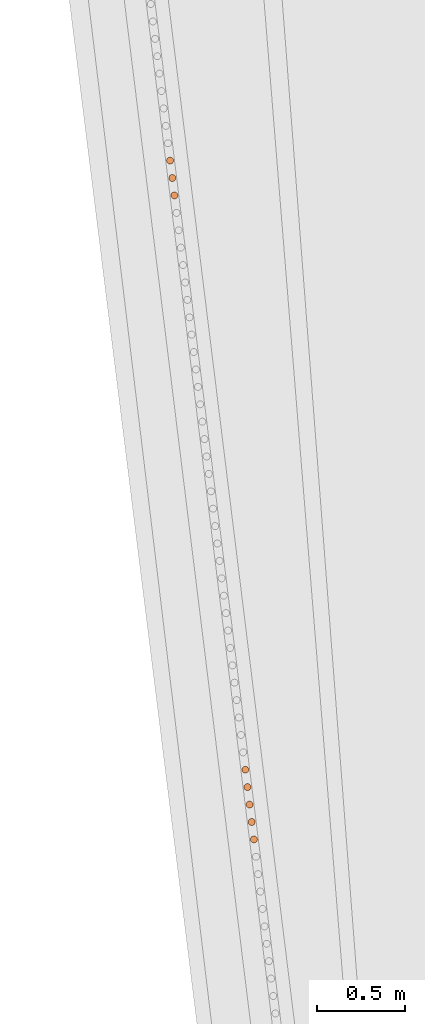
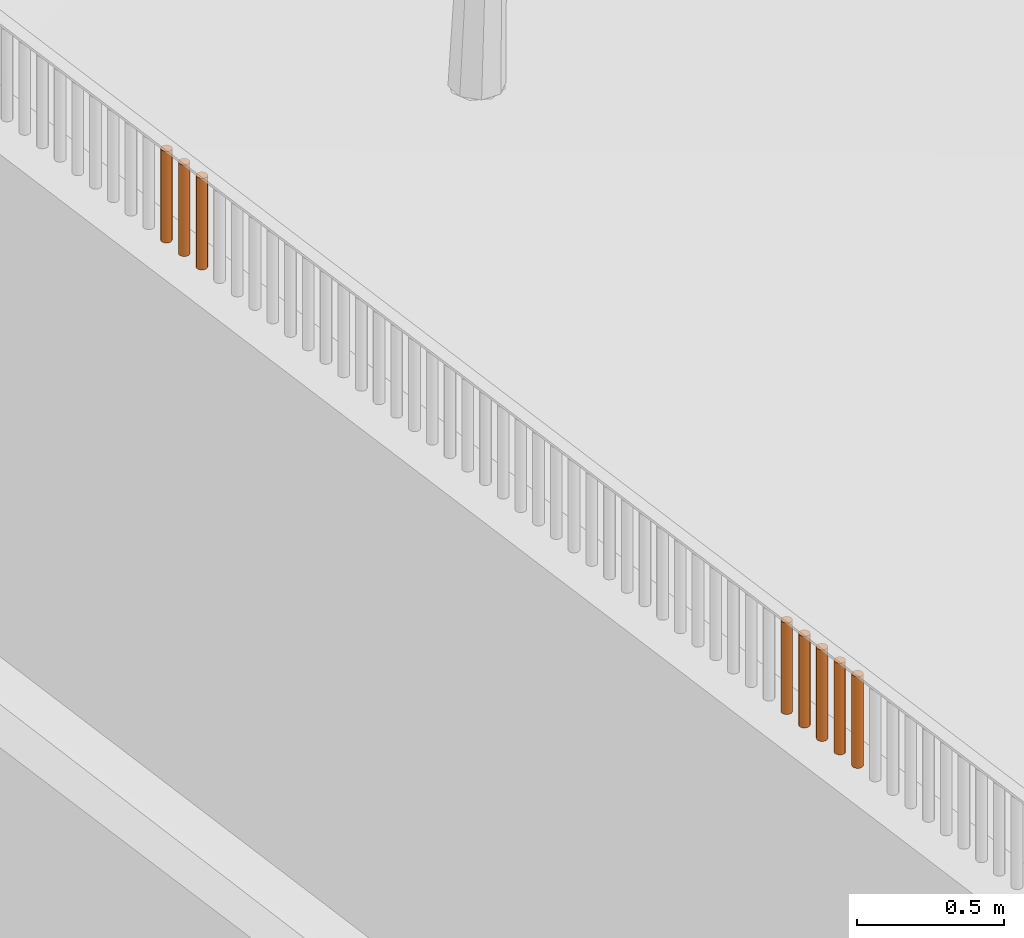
# One storey, part 119 of 1809: 8 proxies, 1 element without a shape of its own.
"""IFC2X3 building model written with IfcOpenShell, lengths in millimetres."""

from ifc_helpers import new_model, entity, si_unit, converted_unit, derived_unit, money_unit, direction, frame, origin_with_axes, place, context, subcontext, project, spatial, faceted_brep, source, transform, mapped, material, type_object, element, aggregate, save


model = new_model("IFC2X3")

# Units and contexts
model_context = context("Model", 3, precision=0.01, world=origin_with_axes(), true_north=direction((0.0, 1.0)))
body_context = subcontext(model_context, "Body", "Model", "MODEL_VIEW")
ifc_project = project(units=[si_unit("LENGTHUNIT", "METRE", prefix="MILLI"), si_unit("AREAUNIT", "SQUARE_METRE"), si_unit("VOLUMEUNIT", "CUBIC_METRE"), converted_unit("PLANEANGLEUNIT", "DEGREE", entity("IfcPlaneAngleMeasure", 0.0174532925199), si_unit("PLANEANGLEUNIT", "RADIAN"), dimensions=[0, 0, 0, 0, 0, 0, 0]), si_unit("SOLIDANGLEUNIT", "STERADIAN"), money_unit("EUR"), converted_unit("TIMEUNIT", "Year", entity("IfcTimeMeasure", 31556926.0), si_unit("TIMEUNIT", "SECOND"), dimensions=[0, 0, 1, 0, 0, 0, 0]), si_unit("MASSUNIT", "GRAM", prefix="KILO"), si_unit("THERMODYNAMICTEMPERATUREUNIT", "DEGREE_CELSIUS"), si_unit("LUMINOUSINTENSITYUNIT", "LUMEN"), si_unit("ENERGYUNIT", "JOULE", prefix="MEGA"), derived_unit("THERMALCONDUCTANCEUNIT", [(si_unit("POWERUNIT", "WATT"), 1), (si_unit("LENGTHUNIT", "METRE"), -1), (si_unit("THERMODYNAMICTEMPERATUREUNIT", "KELVIN"), -1)]), derived_unit("SPECIFICHEATCAPACITYUNIT", [(si_unit("ENERGYUNIT", "JOULE"), 1), (si_unit("MASSUNIT", "GRAM", prefix="KILO"), -1), (si_unit("THERMODYNAMICTEMPERATUREUNIT", "KELVIN"), -1)]), derived_unit("MASSDENSITYUNIT", [(si_unit("MASSUNIT", "GRAM", prefix="KILO"), 1), (si_unit("VOLUMEUNIT", "CUBIC_METRE"), -1)])], contexts=[model_context])

# Site, building, storey
site_placement = place(None, origin_with_axes())
site = spatial("IfcSite", under=ifc_project, at=site_placement, Name="Politse- ja Piirivalveameti ning Päästeameti ühishoone", CompositionType="ELEMENT")
building_placement = place(site_placement, origin_with_axes())
building = spatial("IfcBuilding", under=site, at=building_placement, Name="Politse- ja Piirivalveameti ning Päästeameti ühishoone", CompositionType="ELEMENT")
storey_placement = place(building_placement, origin_with_axes())
storey = spatial("IfcBuildingStorey", under=building, at=storey_placement, Name="Esimene korrus", CompositionType="ELEMENT", Elevation=0.0)

# Proxies
building_element_proxy_type_1 = type_object("IfcBuildingElementProxyType", Name="Railing Type", PredefinedType="NOTDEFINED")
proxy_1_placement = place(storey_placement, frame((-18956.5522504, -53688.4757966, 2100.0), z_axis=(0.0, 0.0, 1.0), x_axis=(1.0, 0.0, 0.0)))
proxy_1 = element("IfcBuildingElementProxy", 1, at=proxy_1_placement, inside=storey, type_object=building_element_proxy_type_1, Name="PIIRDEAED")
ifc_material = material(Name="ET-06_Teras - Konstruktsioon")
building_element_proxy_type_2 = type_object("IfcBuildingElementProxyType", Name="IfcBuildingElementProxy", PredefinedType="NOTDEFINED")
shared_shape_1 = source(origin_with_axes(), body_context, "Body", "Brep", [
    faceted_brep([(0.0, -20.0, 0.0), (3.47296355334, -19.6961550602, 0.0), (3.47296355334, -19.6961550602, 380.000012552), (0.0, -20.0, 380.000012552), (-3.47296355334, -19.6961550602, 0.0), (-6.84040286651, -18.7938524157, 0.0), (-10.0, -17.3205080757, 0.0), (-12.8557521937, -15.3208888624, 0.0), (-15.3208888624, -12.8557521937, 0.0), (-17.3205080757, -10.0, 0.0), (-18.7938524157, -6.84040286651, 0.0), (-19.6961550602, -3.47296355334, 0.0), (-20.0, 0.0, 0.0), (-19.6961550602, 3.47296355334, 0.0), (-18.7938524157, 6.84040286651, 0.0), (-17.3205080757, 10.0, 0.0), (-15.3208888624, 12.8557521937, 0.0), (-12.8557521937, 15.3208888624, 0.0), (-10.0, 17.3205080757, 0.0), (-6.84040286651, 18.7938524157, 0.0), (-3.47296355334, 19.6961550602, 0.0), (0.0, 20.0, 0.0), (3.47296355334, 19.6961550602, 0.0), (6.84040286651, 18.7938524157, 0.0), (10.0, 17.3205080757, 0.0), (12.8557521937, 15.3208888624, 0.0), (15.3208888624, 12.8557521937, 0.0), (17.3205080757, 10.0, 0.0), (18.7938524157, 6.84040286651, 0.0), (19.6961550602, 3.47296355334, 0.0), (20.0, 0.0, 0.0), (19.6961550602, -3.47296355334, 0.0), (18.7938524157, -6.84040286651, 0.0), (17.3205080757, -10.0, 0.0), (15.3208888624, -12.8557521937, 0.0), (12.8557521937, -15.3208888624, 0.0), (10.0, -17.3205080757, 0.0), (6.84040286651, -18.7938524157, 0.0), (6.84040286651, -18.7938524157, 380.000012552), (10.0, -17.3205080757, 380.000012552), (12.8557521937, -15.3208888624, 380.000012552), (15.3208888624, -12.8557521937, 380.000012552), (17.3205080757, -10.0, 380.000012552), (18.7938524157, -6.84040286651, 380.000012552), (19.6961550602, -3.47296355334, 380.000012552), (20.0, 0.0, 380.000012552), (19.6961550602, 3.47296355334, 380.000012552), (18.7938524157, 6.84040286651, 380.000012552), (17.3205080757, 10.0, 380.000012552), (15.3208888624, 12.8557521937, 380.000012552), (12.8557521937, 15.3208888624, 380.000012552), (10.0, 17.3205080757, 380.000012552), (6.84040286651, 18.7938524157, 380.000012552), (3.47296355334, 19.6961550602, 380.000012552), (0.0, 20.0, 380.000012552), (-3.47296355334, 19.6961550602, 380.000012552), (-6.84040286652, 18.7938524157, 380.000012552), (-10.0, 17.3205080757, 380.000012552), (-12.8557521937, 15.3208888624, 380.000012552), (-15.3208888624, 12.8557521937, 380.000012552), (-17.3205080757, 10.0, 380.000012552), (-18.7938524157, 6.84040286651, 380.000012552), (-19.6961550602, 3.47296355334, 380.000012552), (-20.0, 0.0, 380.000012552), (-19.6961550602, -3.47296355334, 380.000012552), (-18.7938524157, -6.84040286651, 380.000012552), (-17.3205080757, -10.0, 380.000012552), (-15.3208888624, -12.8557521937, 380.000012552), (-12.8557521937, -15.3208888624, 380.000012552), (-10.0, -17.3205080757, 380.000012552), (-6.84040286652, -18.7938524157, 380.000012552), (-3.47296355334, -19.6961550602, 380.000012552)], [[[0, 1, 2, 3]], [[0, 4, 5, 6, 7, 8, 9, 10, 11, 12, 13, 14, 15, 16, 17, 18, 19, 20, 21, 22, 23, 24, 25, 26, 27, 28, 29, 30, 31, 32, 33, 34, 35, 36, 37, 1]], [[1, 37, 38, 2]], [[3, 2, 38, 39, 40, 41, 42, 43, 44, 45, 46, 47, 48, 49, 50, 51, 52, 53, 54, 55, 56, 57, 58, 59, 60, 61, 62, 63, 64, 65, 66, 67, 68, 69, 70, 71]], [[4, 0, 3, 71]], [[5, 4, 71, 70]], [[6, 5, 70, 69]], [[7, 6, 69, 68]], [[8, 7, 68, 67]], [[9, 8, 67, 66]], [[10, 9, 66, 65]], [[11, 10, 65, 64]], [[12, 11, 64, 63]], [[13, 12, 63, 62]], [[14, 13, 62, 61]], [[15, 14, 61, 60]], [[16, 15, 60, 59]], [[17, 16, 59, 58]], [[18, 17, 58, 57]], [[19, 18, 57, 56]], [[20, 19, 56, 55]], [[21, 20, 55, 54]], [[22, 21, 54, 53]], [[23, 22, 53, 52]], [[24, 23, 52, 51]], [[25, 24, 51, 50]], [[26, 25, 50, 49]], [[27, 26, 49, 48]], [[28, 27, 48, 47]], [[29, 28, 47, 46]], [[30, 29, 46, 45]], [[31, 30, 45, 44]], [[32, 31, 44, 43]], [[33, 32, 43, 42]], [[34, 33, 42, 41]], [[35, 34, 41, 40]], [[36, 35, 40, 39]], [[37, 36, 39, 38]]]),
])
proxy_2_placement = place(proxy_1_placement, frame((-3044.71972679, 23832.8473186, -1.25517001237e-05), z_axis=(0.0, 0.0, 1.0), x_axis=(1.0, 0.0, 0.0)))
proxy_2 = element("IfcBuildingElementProxy", 2, at=proxy_2_placement, type_object=building_element_proxy_type_2, material=ifc_material, Name="BALUSTER - 001", context=body_context, shape_type="MappedRepresentation", body=[
    mapped(shared_shape_1, transform((0.0, 0.0, 0.0), x_axis=(0.992468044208, 0.122503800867, 0.0), y_axis=(-0.122503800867, 0.992468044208, 0.0), z_axis=(0.0, 0.0, 1.0))),
])
shared_shape_2 = source(origin_with_axes(), body_context, "Body", "Brep", [
    faceted_brep([(0.0, -20.0, 0.0), (3.47296355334, -19.6961550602, 0.0), (3.47296355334, -19.6961550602, 380.000012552), (0.0, -20.0, 380.000012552), (-3.47296355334, -19.6961550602, 0.0), (-6.84040286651, -18.7938524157, 0.0), (-10.0, -17.3205080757, 0.0), (-12.8557521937, -15.3208888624, 0.0), (-15.3208888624, -12.8557521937, 0.0), (-17.3205080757, -10.0, 0.0), (-18.7938524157, -6.84040286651, 0.0), (-19.6961550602, -3.47296355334, 0.0), (-20.0, 0.0, 0.0), (-19.6961550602, 3.47296355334, 0.0), (-18.7938524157, 6.84040286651, 0.0), (-17.3205080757, 10.0, 0.0), (-15.3208888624, 12.8557521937, 0.0), (-12.8557521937, 15.3208888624, 0.0), (-10.0, 17.3205080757, 0.0), (-6.84040286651, 18.7938524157, 0.0), (-3.47296355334, 19.6961550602, 0.0), (0.0, 20.0, 0.0), (3.47296355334, 19.6961550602, 0.0), (6.84040286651, 18.7938524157, 0.0), (10.0, 17.3205080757, 0.0), (12.8557521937, 15.3208888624, 0.0), (15.3208888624, 12.8557521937, 0.0), (17.3205080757, 10.0, 0.0), (18.7938524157, 6.84040286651, 0.0), (19.6961550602, 3.47296355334, 0.0), (20.0, 0.0, 0.0), (19.6961550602, -3.47296355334, 0.0), (18.7938524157, -6.84040286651, 0.0), (17.3205080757, -10.0, 0.0), (15.3208888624, -12.8557521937, 0.0), (12.8557521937, -15.3208888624, 0.0), (10.0, -17.3205080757, 0.0), (6.84040286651, -18.7938524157, 0.0), (6.84040286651, -18.7938524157, 380.000012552), (10.0, -17.3205080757, 380.000012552), (12.8557521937, -15.3208888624, 380.000012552), (15.3208888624, -12.8557521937, 380.000012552), (17.3205080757, -10.0, 380.000012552), (18.7938524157, -6.84040286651, 380.000012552), (19.6961550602, -3.47296355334, 380.000012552), (20.0, 0.0, 380.000012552), (19.6961550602, 3.47296355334, 380.000012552), (18.7938524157, 6.84040286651, 380.000012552), (17.3205080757, 10.0, 380.000012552), (15.3208888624, 12.8557521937, 380.000012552), (12.8557521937, 15.3208888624, 380.000012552), (10.0, 17.3205080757, 380.000012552), (6.84040286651, 18.7938524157, 380.000012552), (3.47296355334, 19.6961550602, 380.000012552), (0.0, 20.0, 380.000012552), (-3.47296355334, 19.6961550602, 380.000012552), (-6.84040286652, 18.7938524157, 380.000012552), (-10.0, 17.3205080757, 380.000012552), (-12.8557521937, 15.3208888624, 380.000012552), (-15.3208888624, 12.8557521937, 380.000012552), (-17.3205080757, 10.0, 380.000012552), (-18.7938524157, 6.84040286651, 380.000012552), (-19.6961550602, 3.47296355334, 380.000012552), (-20.0, 0.0, 380.000012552), (-19.6961550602, -3.47296355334, 380.000012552), (-18.7938524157, -6.84040286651, 380.000012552), (-17.3205080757, -10.0, 380.000012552), (-15.3208888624, -12.8557521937, 380.000012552), (-12.8557521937, -15.3208888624, 380.000012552), (-10.0, -17.3205080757, 380.000012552), (-6.84040286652, -18.7938524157, 380.000012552), (-3.47296355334, -19.6961550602, 380.000012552)], [[[0, 1, 2, 3]], [[0, 4, 5, 6, 7, 8, 9, 10, 11, 12, 13, 14, 15, 16, 17, 18, 19, 20, 21, 22, 23, 24, 25, 26, 27, 28, 29, 30, 31, 32, 33, 34, 35, 36, 37, 1]], [[1, 37, 38, 2]], [[3, 2, 38, 39, 40, 41, 42, 43, 44, 45, 46, 47, 48, 49, 50, 51, 52, 53, 54, 55, 56, 57, 58, 59, 60, 61, 62, 63, 64, 65, 66, 67, 68, 69, 70, 71]], [[4, 0, 3, 71]], [[5, 4, 71, 70]], [[6, 5, 70, 69]], [[7, 6, 69, 68]], [[8, 7, 68, 67]], [[9, 8, 67, 66]], [[10, 9, 66, 65]], [[11, 10, 65, 64]], [[12, 11, 64, 63]], [[13, 12, 63, 62]], [[14, 13, 62, 61]], [[15, 14, 61, 60]], [[16, 15, 60, 59]], [[17, 16, 59, 58]], [[18, 17, 58, 57]], [[19, 18, 57, 56]], [[20, 19, 56, 55]], [[21, 20, 55, 54]], [[22, 21, 54, 53]], [[23, 22, 53, 52]], [[24, 23, 52, 51]], [[25, 24, 51, 50]], [[26, 25, 50, 49]], [[27, 26, 49, 48]], [[28, 27, 48, 47]], [[29, 28, 47, 46]], [[30, 29, 46, 45]], [[31, 30, 45, 44]], [[32, 31, 44, 43]], [[33, 32, 43, 42]], [[34, 33, 42, 41]], [[35, 34, 41, 40]], [[36, 35, 40, 39]], [[37, 36, 39, 38]]]),
])
proxy_3_placement = place(proxy_1_placement, frame((-2579.30694009, 20062.2923245, -1.25517001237e-05), z_axis=(0.0, 0.0, 1.0), x_axis=(1.0, 0.0, 0.0)))
proxy_3 = element("IfcBuildingElementProxy", 3, at=proxy_3_placement, type_object=building_element_proxy_type_2, material=ifc_material, Name="BALUSTER - 001", context=body_context, shape_type="MappedRepresentation", body=[
    mapped(shared_shape_2, transform((0.0, 0.0, 0.0), x_axis=(0.992468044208, 0.122503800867, 0.0), y_axis=(-0.122503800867, 0.992468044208, 0.0), z_axis=(0.0, 0.0, 1.0))),
])
shared_shape_3 = source(origin_with_axes(), body_context, "Body", "Brep", [
    faceted_brep([(0.0, -20.0, 0.0), (3.47296355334, -19.6961550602, 0.0), (3.47296355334, -19.6961550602, 380.000012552), (0.0, -20.0, 380.000012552), (-3.47296355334, -19.6961550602, 0.0), (-6.84040286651, -18.7938524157, 0.0), (-10.0, -17.3205080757, 0.0), (-12.8557521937, -15.3208888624, 0.0), (-15.3208888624, -12.8557521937, 0.0), (-17.3205080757, -10.0, 0.0), (-18.7938524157, -6.84040286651, 0.0), (-19.6961550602, -3.47296355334, 0.0), (-20.0, 0.0, 0.0), (-19.6961550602, 3.47296355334, 0.0), (-18.7938524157, 6.84040286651, 0.0), (-17.3205080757, 10.0, 0.0), (-15.3208888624, 12.8557521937, 0.0), (-12.8557521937, 15.3208888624, 0.0), (-10.0, 17.3205080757, 0.0), (-6.84040286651, 18.7938524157, 0.0), (-3.47296355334, 19.6961550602, 0.0), (0.0, 20.0, 0.0), (3.47296355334, 19.6961550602, 0.0), (6.84040286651, 18.7938524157, 0.0), (10.0, 17.3205080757, 0.0), (12.8557521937, 15.3208888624, 0.0), (15.3208888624, 12.8557521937, 0.0), (17.3205080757, 10.0, 0.0), (18.7938524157, 6.84040286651, 0.0), (19.6961550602, 3.47296355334, 0.0), (20.0, 0.0, 0.0), (19.6961550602, -3.47296355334, 0.0), (18.7938524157, -6.84040286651, 0.0), (17.3205080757, -10.0, 0.0), (15.3208888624, -12.8557521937, 0.0), (12.8557521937, -15.3208888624, 0.0), (10.0, -17.3205080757, 0.0), (6.84040286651, -18.7938524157, 0.0), (6.84040286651, -18.7938524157, 380.000012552), (10.0, -17.3205080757, 380.000012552), (12.8557521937, -15.3208888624, 380.000012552), (15.3208888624, -12.8557521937, 380.000012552), (17.3205080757, -10.0, 380.000012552), (18.7938524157, -6.84040286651, 380.000012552), (19.6961550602, -3.47296355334, 380.000012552), (20.0, 0.0, 380.000012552), (19.6961550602, 3.47296355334, 380.000012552), (18.7938524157, 6.84040286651, 380.000012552), (17.3205080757, 10.0, 380.000012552), (15.3208888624, 12.8557521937, 380.000012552), (12.8557521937, 15.3208888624, 380.000012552), (10.0, 17.3205080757, 380.000012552), (6.84040286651, 18.7938524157, 380.000012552), (3.47296355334, 19.6961550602, 380.000012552), (0.0, 20.0, 380.000012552), (-3.47296355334, 19.6961550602, 380.000012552), (-6.84040286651, 18.7938524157, 380.000012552), (-10.0, 17.3205080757, 380.000012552), (-12.8557521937, 15.3208888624, 380.000012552), (-15.3208888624, 12.8557521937, 380.000012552), (-17.3205080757, 10.0, 380.000012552), (-18.7938524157, 6.84040286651, 380.000012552), (-19.6961550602, 3.47296355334, 380.000012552), (-20.0, 0.0, 380.000012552), (-19.6961550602, -3.47296355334, 380.000012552), (-18.7938524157, -6.84040286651, 380.000012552), (-17.3205080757, -10.0, 380.000012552), (-15.3208888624, -12.8557521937, 380.000012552), (-12.8557521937, -15.3208888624, 380.000012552), (-10.0, -17.3205080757, 380.000012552), (-6.84040286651, -18.7938524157, 380.000012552), (-3.47296355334, -19.6961550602, 380.000012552)], [[[0, 1, 2, 3]], [[0, 4, 5, 6, 7, 8, 9, 10, 11, 12, 13, 14, 15, 16, 17, 18, 19, 20, 21, 22, 23, 24, 25, 26, 27, 28, 29, 30, 31, 32, 33, 34, 35, 36, 37, 1]], [[1, 37, 38, 2]], [[3, 2, 38, 39, 40, 41, 42, 43, 44, 45, 46, 47, 48, 49, 50, 51, 52, 53, 54, 55, 56, 57, 58, 59, 60, 61, 62, 63, 64, 65, 66, 67, 68, 69, 70, 71]], [[4, 0, 3, 71]], [[5, 4, 71, 70]], [[6, 5, 70, 69]], [[7, 6, 69, 68]], [[8, 7, 68, 67]], [[9, 8, 67, 66]], [[10, 9, 66, 65]], [[11, 10, 65, 64]], [[12, 11, 64, 63]], [[13, 12, 63, 62]], [[14, 13, 62, 61]], [[15, 14, 61, 60]], [[16, 15, 60, 59]], [[17, 16, 59, 58]], [[18, 17, 58, 57]], [[19, 18, 57, 56]], [[20, 19, 56, 55]], [[21, 20, 55, 54]], [[22, 21, 54, 53]], [[23, 22, 53, 52]], [[24, 23, 52, 51]], [[25, 24, 51, 50]], [[26, 25, 50, 49]], [[27, 26, 49, 48]], [[28, 27, 48, 47]], [[29, 28, 47, 46]], [[30, 29, 46, 45]], [[31, 30, 45, 44]], [[32, 31, 44, 43]], [[33, 32, 43, 42]], [[34, 33, 42, 41]], [[35, 34, 41, 40]], [[36, 35, 40, 39]], [[37, 36, 39, 38]]]),
])
proxy_4_placement = place(proxy_1_placement, frame((-3032.47202188, 23733.6221872, -1.25517001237e-05), z_axis=(0.0, 0.0, 1.0), x_axis=(1.0, 0.0, 0.0)))
proxy_4 = element("IfcBuildingElementProxy", 4, at=proxy_4_placement, type_object=building_element_proxy_type_2, material=ifc_material, Name="BALUSTER - 001", context=body_context, shape_type="MappedRepresentation", body=[
    mapped(shared_shape_3, transform((0.0, 0.0, 0.0), x_axis=(0.992468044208, 0.122503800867, 0.0), y_axis=(-0.122503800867, 0.992468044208, 0.0), z_axis=(0.0, 0.0, 1.0))),
])
shared_shape_4 = source(origin_with_axes(), body_context, "Body", "Brep", [
    faceted_brep([(0.0, -20.0, 0.0), (3.47296355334, -19.6961550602, 0.0), (3.47296355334, -19.6961550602, 380.000012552), (0.0, -20.0, 380.000012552), (-3.47296355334, -19.6961550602, 0.0), (-6.84040286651, -18.7938524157, 0.0), (-10.0, -17.3205080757, 0.0), (-12.8557521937, -15.3208888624, 0.0), (-15.3208888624, -12.8557521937, 0.0), (-17.3205080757, -10.0, 0.0), (-18.7938524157, -6.84040286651, 0.0), (-19.6961550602, -3.47296355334, 0.0), (-20.0, 0.0, 0.0), (-19.6961550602, 3.47296355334, 0.0), (-18.7938524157, 6.84040286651, 0.0), (-17.3205080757, 10.0, 0.0), (-15.3208888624, 12.8557521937, 0.0), (-12.8557521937, 15.3208888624, 0.0), (-10.0, 17.3205080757, 0.0), (-6.84040286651, 18.7938524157, 0.0), (-3.47296355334, 19.6961550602, 0.0), (0.0, 20.0, 0.0), (3.47296355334, 19.6961550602, 0.0), (6.84040286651, 18.7938524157, 0.0), (10.0, 17.3205080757, 0.0), (12.8557521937, 15.3208888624, 0.0), (15.3208888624, 12.8557521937, 0.0), (17.3205080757, 10.0, 0.0), (18.7938524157, 6.84040286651, 0.0), (19.6961550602, 3.47296355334, 0.0), (20.0, 0.0, 0.0), (19.6961550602, -3.47296355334, 0.0), (18.7938524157, -6.84040286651, 0.0), (17.3205080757, -10.0, 0.0), (15.3208888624, -12.8557521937, 0.0), (12.8557521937, -15.3208888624, 0.0), (10.0, -17.3205080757, 0.0), (6.84040286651, -18.7938524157, 0.0), (6.84040286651, -18.7938524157, 380.000012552), (10.0, -17.3205080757, 380.000012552), (12.8557521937, -15.3208888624, 380.000012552), (15.3208888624, -12.8557521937, 380.000012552), (17.3205080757, -10.0, 380.000012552), (18.7938524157, -6.84040286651, 380.000012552), (19.6961550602, -3.47296355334, 380.000012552), (20.0, 0.0, 380.000012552), (19.6961550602, 3.47296355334, 380.000012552), (18.7938524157, 6.84040286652, 380.000012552), (17.3205080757, 10.0, 380.000012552), (15.3208888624, 12.8557521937, 380.000012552), (12.8557521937, 15.3208888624, 380.000012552), (10.0, 17.3205080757, 380.000012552), (6.84040286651, 18.7938524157, 380.000012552), (3.47296355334, 19.6961550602, 380.000012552), (0.0, 20.0, 380.000012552), (-3.47296355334, 19.6961550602, 380.000012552), (-6.84040286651, 18.7938524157, 380.000012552), (-10.0, 17.3205080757, 380.000012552), (-12.8557521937, 15.3208888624, 380.000012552), (-15.3208888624, 12.8557521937, 380.000012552), (-17.3205080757, 10.0, 380.000012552), (-18.7938524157, 6.84040286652, 380.000012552), (-19.6961550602, 3.47296355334, 380.000012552), (-20.0, 0.0, 380.000012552), (-19.6961550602, -3.47296355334, 380.000012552), (-18.7938524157, -6.84040286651, 380.000012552), (-17.3205080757, -10.0, 380.000012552), (-15.3208888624, -12.8557521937, 380.000012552), (-12.8557521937, -15.3208888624, 380.000012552), (-10.0, -17.3205080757, 380.000012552), (-6.84040286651, -18.7938524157, 380.000012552), (-3.47296355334, -19.6961550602, 380.000012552)], [[[0, 1, 2, 3]], [[0, 4, 5, 6, 7, 8, 9, 10, 11, 12, 13, 14, 15, 16, 17, 18, 19, 20, 21, 22, 23, 24, 25, 26, 27, 28, 29, 30, 31, 32, 33, 34, 35, 36, 37, 1]], [[1, 37, 38, 2]], [[3, 2, 38, 39, 40, 41, 42, 43, 44, 45, 46, 47, 48, 49, 50, 51, 52, 53, 54, 55, 56, 57, 58, 59, 60, 61, 62, 63, 64, 65, 66, 67, 68, 69, 70, 71]], [[4, 0, 3, 71]], [[5, 4, 71, 70]], [[6, 5, 70, 69]], [[7, 6, 69, 68]], [[8, 7, 68, 67]], [[9, 8, 67, 66]], [[10, 9, 66, 65]], [[11, 10, 65, 64]], [[12, 11, 64, 63]], [[13, 12, 63, 62]], [[14, 13, 62, 61]], [[15, 14, 61, 60]], [[16, 15, 60, 59]], [[17, 16, 59, 58]], [[18, 17, 58, 57]], [[19, 18, 57, 56]], [[20, 19, 56, 55]], [[21, 20, 55, 54]], [[22, 21, 54, 53]], [[23, 22, 53, 52]], [[24, 23, 52, 51]], [[25, 24, 51, 50]], [[26, 25, 50, 49]], [[27, 26, 49, 48]], [[28, 27, 48, 47]], [[29, 28, 47, 46]], [[30, 29, 46, 45]], [[31, 30, 45, 44]], [[32, 31, 44, 43]], [[33, 32, 43, 42]], [[34, 33, 42, 41]], [[35, 34, 41, 40]], [[36, 35, 40, 39]], [[37, 36, 39, 38]]]),
])
proxy_5_placement = place(proxy_1_placement, frame((-2567.05923518, 19963.0671931, -1.25517001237e-05), z_axis=(0.0, 0.0, 1.0), x_axis=(1.0, 0.0, 0.0)))
proxy_5 = element("IfcBuildingElementProxy", 5, at=proxy_5_placement, type_object=building_element_proxy_type_2, material=ifc_material, Name="BALUSTER - 001", context=body_context, shape_type="MappedRepresentation", body=[
    mapped(shared_shape_4, transform((0.0, 0.0, 0.0), x_axis=(0.992468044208, 0.122503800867, 0.0), y_axis=(-0.122503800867, 0.992468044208, 0.0), z_axis=(0.0, 0.0, 1.0))),
])
shared_shape_5 = source(origin_with_axes(), body_context, "Body", "Brep", [
    faceted_brep([(0.0, -20.0, 0.0), (3.47296355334, -19.6961550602, 0.0), (3.47296355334, -19.6961550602, 380.000012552), (0.0, -20.0, 380.000012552), (-3.47296355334, -19.6961550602, 0.0), (-6.84040286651, -18.7938524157, 0.0), (-10.0, -17.3205080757, 0.0), (-12.8557521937, -15.3208888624, 0.0), (-15.3208888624, -12.8557521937, 0.0), (-17.3205080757, -10.0, 0.0), (-18.7938524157, -6.84040286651, 0.0), (-19.6961550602, -3.47296355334, 0.0), (-20.0, 0.0, 0.0), (-19.6961550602, 3.47296355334, 0.0), (-18.7938524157, 6.84040286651, 0.0), (-17.3205080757, 10.0, 0.0), (-15.3208888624, 12.8557521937, 0.0), (-12.8557521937, 15.3208888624, 0.0), (-10.0, 17.3205080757, 0.0), (-6.84040286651, 18.7938524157, 0.0), (-3.47296355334, 19.6961550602, 0.0), (0.0, 20.0, 0.0), (3.47296355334, 19.6961550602, 0.0), (6.84040286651, 18.7938524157, 0.0), (10.0, 17.3205080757, 0.0), (12.8557521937, 15.3208888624, 0.0), (15.3208888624, 12.8557521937, 0.0), (17.3205080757, 10.0, 0.0), (18.7938524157, 6.84040286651, 0.0), (19.6961550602, 3.47296355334, 0.0), (20.0, 0.0, 0.0), (19.6961550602, -3.47296355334, 0.0), (18.7938524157, -6.84040286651, 0.0), (17.3205080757, -10.0, 0.0), (15.3208888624, -12.8557521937, 0.0), (12.8557521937, -15.3208888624, 0.0), (10.0, -17.3205080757, 0.0), (6.84040286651, -18.7938524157, 0.0), (6.84040286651, -18.7938524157, 380.000012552), (10.0, -17.3205080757, 380.000012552), (12.8557521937, -15.3208888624, 380.000012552), (15.3208888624, -12.8557521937, 380.000012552), (17.3205080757, -10.0, 380.000012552), (18.7938524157, -6.84040286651, 380.000012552), (19.6961550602, -3.47296355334, 380.000012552), (20.0, 0.0, 380.000012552), (19.6961550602, 3.47296355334, 380.000012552), (18.7938524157, 6.84040286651, 380.000012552), (17.3205080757, 10.0, 380.000012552), (15.3208888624, 12.8557521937, 380.000012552), (12.8557521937, 15.3208888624, 380.000012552), (10.0, 17.3205080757, 380.000012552), (6.84040286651, 18.7938524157, 380.000012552), (3.47296355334, 19.6961550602, 380.000012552), (0.0, 20.0, 380.000012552), (-3.47296355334, 19.6961550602, 380.000012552), (-6.84040286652, 18.7938524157, 380.000012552), (-10.0, 17.3205080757, 380.000012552), (-12.8557521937, 15.3208888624, 380.000012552), (-15.3208888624, 12.8557521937, 380.000012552), (-17.3205080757, 10.0, 380.000012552), (-18.7938524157, 6.84040286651, 380.000012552), (-19.6961550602, 3.47296355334, 380.000012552), (-20.0, 0.0, 380.000012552), (-19.6961550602, -3.47296355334, 380.000012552), (-18.7938524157, -6.84040286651, 380.000012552), (-17.3205080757, -10.0, 380.000012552), (-15.3208888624, -12.8557521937, 380.000012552), (-12.8557521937, -15.3208888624, 380.000012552), (-10.0, -17.3205080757, 380.000012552), (-6.84040286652, -18.7938524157, 380.000012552), (-3.47296355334, -19.6961550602, 380.000012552)], [[[0, 1, 2, 3]], [[0, 4, 5, 6, 7, 8, 9, 10, 11, 12, 13, 14, 15, 16, 17, 18, 19, 20, 21, 22, 23, 24, 25, 26, 27, 28, 29, 30, 31, 32, 33, 34, 35, 36, 37, 1]], [[1, 37, 38, 2]], [[3, 2, 38, 39, 40, 41, 42, 43, 44, 45, 46, 47, 48, 49, 50, 51, 52, 53, 54, 55, 56, 57, 58, 59, 60, 61, 62, 63, 64, 65, 66, 67, 68, 69, 70, 71]], [[4, 0, 3, 71]], [[5, 4, 71, 70]], [[6, 5, 70, 69]], [[7, 6, 69, 68]], [[8, 7, 68, 67]], [[9, 8, 67, 66]], [[10, 9, 66, 65]], [[11, 10, 65, 64]], [[12, 11, 64, 63]], [[13, 12, 63, 62]], [[14, 13, 62, 61]], [[15, 14, 61, 60]], [[16, 15, 60, 59]], [[17, 16, 59, 58]], [[18, 17, 58, 57]], [[19, 18, 57, 56]], [[20, 19, 56, 55]], [[21, 20, 55, 54]], [[22, 21, 54, 53]], [[23, 22, 53, 52]], [[24, 23, 52, 51]], [[25, 24, 51, 50]], [[26, 25, 50, 49]], [[27, 26, 49, 48]], [[28, 27, 48, 47]], [[29, 28, 47, 46]], [[30, 29, 46, 45]], [[31, 30, 45, 44]], [[32, 31, 44, 43]], [[33, 32, 43, 42]], [[34, 33, 42, 41]], [[35, 34, 41, 40]], [[36, 35, 40, 39]], [[37, 36, 39, 38]]]),
])
proxy_6_placement = place(proxy_1_placement, frame((-2591.55464501, 20161.5174559, -1.25517001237e-05), z_axis=(0.0, 0.0, 1.0), x_axis=(1.0, 0.0, 0.0)))
proxy_6 = element("IfcBuildingElementProxy", 6, at=proxy_6_placement, type_object=building_element_proxy_type_2, material=ifc_material, Name="BALUSTER - 001", context=body_context, shape_type="MappedRepresentation", body=[
    mapped(shared_shape_5, transform((0.0, 0.0, 0.0), x_axis=(0.992468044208, 0.122503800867, 0.0), y_axis=(-0.122503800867, 0.992468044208, 0.0), z_axis=(0.0, 0.0, 1.0))),
])
proxy_7_placement = place(proxy_1_placement, frame((-2603.80234992, 20260.7425873, -1.25517001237e-05), z_axis=(0.0, 0.0, 1.0), x_axis=(1.0, 0.0, 0.0)))
proxy_7 = element("IfcBuildingElementProxy", 7, at=proxy_7_placement, type_object=building_element_proxy_type_2, material=ifc_material, Name="BALUSTER - 001", context=body_context, shape_type="MappedRepresentation", body=[
    mapped(shared_shape_5, transform((0.0, 0.0, 0.0), x_axis=(0.992468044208, 0.122503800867, 0.0), y_axis=(-0.122503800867, 0.992468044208, 0.0), z_axis=(0.0, 0.0, 1.0))),
])
shared_shape_6 = source(origin_with_axes(), body_context, "Body", "Brep", [
    faceted_brep([(0.0, -20.0, 0.0), (3.47296355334, -19.6961550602, 0.0), (3.47296355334, -19.6961550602, 380.000012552), (0.0, -20.0, 380.000012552), (-3.47296355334, -19.6961550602, 0.0), (-6.84040286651, -18.7938524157, 0.0), (-10.0, -17.3205080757, 0.0), (-12.8557521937, -15.3208888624, 0.0), (-15.3208888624, -12.8557521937, 0.0), (-17.3205080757, -10.0, 0.0), (-18.7938524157, -6.84040286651, 0.0), (-19.6961550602, -3.47296355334, 0.0), (-20.0, 0.0, 0.0), (-19.6961550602, 3.47296355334, 0.0), (-18.7938524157, 6.84040286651, 0.0), (-17.3205080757, 10.0, 0.0), (-15.3208888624, 12.8557521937, 0.0), (-12.8557521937, 15.3208888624, 0.0), (-10.0, 17.3205080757, 0.0), (-6.84040286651, 18.7938524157, 0.0), (-3.47296355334, 19.6961550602, 0.0), (0.0, 20.0, 0.0), (3.47296355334, 19.6961550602, 0.0), (6.84040286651, 18.7938524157, 0.0), (10.0, 17.3205080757, 0.0), (12.8557521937, 15.3208888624, 0.0), (15.3208888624, 12.8557521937, 0.0), (17.3205080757, 10.0, 0.0), (18.7938524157, 6.84040286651, 0.0), (19.6961550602, 3.47296355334, 0.0), (20.0, 0.0, 0.0), (19.6961550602, -3.47296355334, 0.0), (18.7938524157, -6.84040286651, 0.0), (17.3205080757, -10.0, 0.0), (15.3208888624, -12.8557521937, 0.0), (12.8557521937, -15.3208888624, 0.0), (10.0, -17.3205080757, 0.0), (6.84040286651, -18.7938524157, 0.0), (6.84040286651, -18.7938524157, 380.000012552), (10.0, -17.3205080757, 380.000012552), (12.8557521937, -15.3208888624, 380.000012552), (15.3208888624, -12.8557521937, 380.000012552), (17.3205080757, -10.0, 380.000012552), (18.7938524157, -6.84040286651, 380.000012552), (19.6961550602, -3.47296355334, 380.000012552), (20.0, 0.0, 380.000012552), (19.6961550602, 3.47296355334, 380.000012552), (18.7938524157, 6.84040286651, 380.000012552), (17.3205080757, 10.0, 380.000012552), (15.3208888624, 12.8557521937, 380.000012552), (12.8557521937, 15.3208888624, 380.000012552), (10.0, 17.3205080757, 380.000012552), (6.84040286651, 18.7938524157, 380.000012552), (3.47296355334, 19.6961550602, 380.000012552), (0.0, 20.0, 380.000012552), (-3.47296355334, 19.6961550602, 380.000012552), (-6.84040286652, 18.7938524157, 380.000012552), (-10.0, 17.3205080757, 380.000012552), (-12.8557521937, 15.3208888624, 380.000012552), (-15.3208888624, 12.8557521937, 380.000012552), (-17.3205080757, 10.0, 380.000012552), (-18.7938524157, 6.84040286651, 380.000012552), (-19.6961550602, 3.47296355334, 380.000012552), (-20.0, 0.0, 380.000012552), (-19.6961550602, -3.47296355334, 380.000012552), (-18.7938524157, -6.84040286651, 380.000012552), (-17.3205080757, -10.0, 380.000012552), (-15.3208888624, -12.8557521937, 380.000012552), (-12.8557521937, -15.3208888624, 380.000012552), (-10.0, -17.3205080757, 380.000012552), (-6.84040286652, -18.7938524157, 380.000012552), (-3.47296355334, -19.6961550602, 380.000012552)], [[[0, 1, 2, 3]], [[0, 4, 5, 6, 7, 8, 9, 10, 11, 12, 13, 14, 15, 16, 17, 18, 19, 20, 21, 22, 23, 24, 25, 26, 27, 28, 29, 30, 31, 32, 33, 34, 35, 36, 37, 1]], [[1, 37, 38, 2]], [[3, 2, 38, 39, 40, 41, 42, 43, 44, 45, 46, 47, 48, 49, 50, 51, 52, 53, 54, 55, 56, 57, 58, 59, 60, 61, 62, 63, 64, 65, 66, 67, 68, 69, 70, 71]], [[4, 0, 3, 71]], [[5, 4, 71, 70]], [[6, 5, 70, 69]], [[7, 6, 69, 68]], [[8, 7, 68, 67]], [[9, 8, 67, 66]], [[10, 9, 66, 65]], [[11, 10, 65, 64]], [[12, 11, 64, 63]], [[13, 12, 63, 62]], [[14, 13, 62, 61]], [[15, 14, 61, 60]], [[16, 15, 60, 59]], [[17, 16, 59, 58]], [[18, 17, 58, 57]], [[19, 18, 57, 56]], [[20, 19, 56, 55]], [[21, 20, 55, 54]], [[22, 21, 54, 53]], [[23, 22, 53, 52]], [[24, 23, 52, 51]], [[25, 24, 51, 50]], [[26, 25, 50, 49]], [[27, 26, 49, 48]], [[28, 27, 48, 47]], [[29, 28, 47, 46]], [[30, 29, 46, 45]], [[31, 30, 45, 44]], [[32, 31, 44, 43]], [[33, 32, 43, 42]], [[34, 33, 42, 41]], [[35, 34, 41, 40]], [[36, 35, 40, 39]], [[37, 36, 39, 38]]]),
])
proxy_8_placement = place(proxy_1_placement, frame((-2616.05005483, 20359.9677188, -1.25517001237e-05), z_axis=(0.0, 0.0, 1.0), x_axis=(1.0, 0.0, 0.0)))
proxy_8 = element("IfcBuildingElementProxy", 8, at=proxy_8_placement, type_object=building_element_proxy_type_2, material=ifc_material, Name="BALUSTER - 001", context=body_context, shape_type="MappedRepresentation", body=[
    mapped(shared_shape_6, transform((0.0, 0.0, 0.0), x_axis=(0.992468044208, 0.122503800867, 0.0), y_axis=(-0.122503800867, 0.992468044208, 0.0), z_axis=(0.0, 0.0, 1.0))),
])
proxy_9_placement = place(proxy_1_placement, frame((-3020.22431696, 23634.3970558, -1.25517001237e-05), z_axis=(0.0, 0.0, 1.0), x_axis=(1.0, 0.0, 0.0)))
proxy_9 = element("IfcBuildingElementProxy", 9, at=proxy_9_placement, type_object=building_element_proxy_type_2, material=ifc_material, Name="BALUSTER - 001", context=body_context, shape_type="MappedRepresentation", body=[
    mapped(shared_shape_6, transform((0.0, 0.0, 0.0), x_axis=(0.992468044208, 0.122503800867, 0.0), y_axis=(-0.122503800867, 0.992468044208, 0.0), z_axis=(0.0, 0.0, 1.0))),
])
aggregate(proxy_1, [proxy_5, proxy_3, proxy_6, proxy_7, proxy_8, proxy_9, proxy_4, proxy_2])

save(model, "model.ifc")
